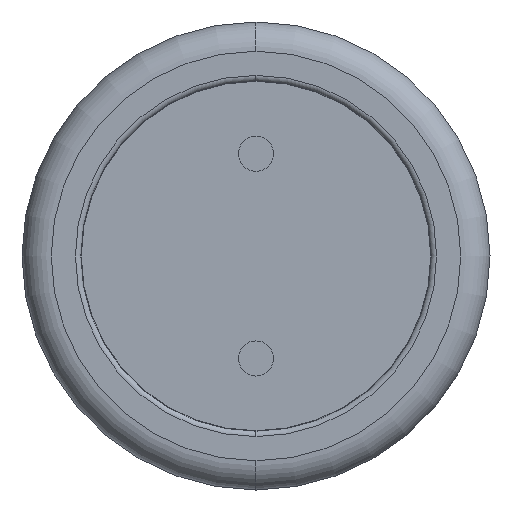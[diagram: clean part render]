
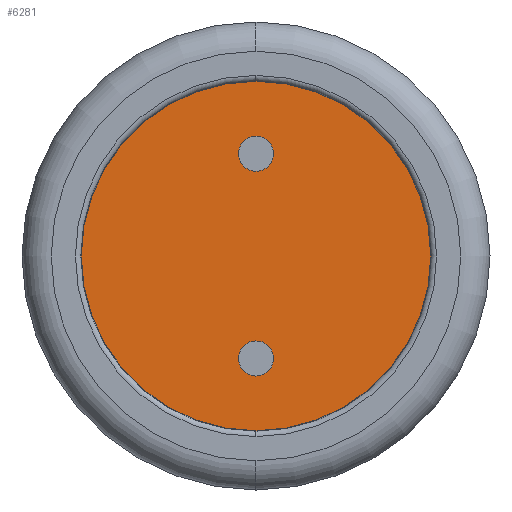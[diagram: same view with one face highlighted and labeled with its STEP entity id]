
A CAD part, left-side view. The second image highlights one B-rep face of the part: STEP entity #6281.
In plain terms, the highlighted planar face has unit normal (-1, 0, 0).
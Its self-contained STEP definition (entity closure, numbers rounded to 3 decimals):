
#40=CARTESIAN_POINT('',(-6.8,0.,0.002));
#41=DIRECTION('',(-1.,0.,0.));
#42=DIRECTION('',(0.,0.,-1.));
#43=AXIS2_PLACEMENT_3D('',#40,#41,#42);
#45=CARTESIAN_POINT('',(-6.8,0.,0.002));
#46=DIRECTION('',(1.,0.,0.));
#47=DIRECTION('',(0.,0.,-1.));
#48=AXIS2_PLACEMENT_3D('',#45,#46,#47);
#50=CARTESIAN_POINT('',(-6.8,0.,-1.75));
#51=DIRECTION('',(-1.,0.,0.));
#52=DIRECTION('',(0.,0.,-1.));
#53=AXIS2_PLACEMENT_3D('',#50,#51,#52);
#55=CARTESIAN_POINT('',(-6.8,0.,-1.75));
#56=DIRECTION('',(-1.,0.,0.));
#57=DIRECTION('',(0.,0.,1.));
#58=AXIS2_PLACEMENT_3D('',#55,#56,#57);
#60=CARTESIAN_POINT('',(-6.8,0.,1.75));
#61=DIRECTION('',(-1.,0.,0.));
#62=DIRECTION('',(0.,0.,-1.));
#63=AXIS2_PLACEMENT_3D('',#60,#61,#62);
#65=CARTESIAN_POINT('',(-6.8,0.,1.75));
#66=DIRECTION('',(-1.,0.,0.));
#67=DIRECTION('',(0.,0.,1.));
#68=AXIS2_PLACEMENT_3D('',#65,#66,#67);
#4734=CARTESIAN_POINT('',(-6.8,0.,-2.998));
#4735=VERTEX_POINT('',#4734);
#4736=CARTESIAN_POINT('',(-6.8,0.,3.002));
#4737=VERTEX_POINT('',#4736);
#4742=CARTESIAN_POINT('',(-6.8,0.,-2.05));
#4743=CARTESIAN_POINT('',(-6.8,0.,-1.45));
#4744=VERTEX_POINT('',#4742);
#4745=VERTEX_POINT('',#4743);
#4746=CARTESIAN_POINT('',(-6.8,0.,1.45));
#4747=CARTESIAN_POINT('',(-6.8,0.,2.05));
#4748=VERTEX_POINT('',#4746);
#4749=VERTEX_POINT('',#4747);
#6260=CARTESIAN_POINT('',(-6.8,0.,0.002));
#6261=DIRECTION('',(1.,0.,0.));
#6262=DIRECTION('',(0.,0.,1.));
#6263=AXIS2_PLACEMENT_3D('',#6260,#6261,#6262);
#6264=PLANE('',#6263);
#6265=ORIENTED_EDGE('',*,*,#6239,.F.);
#6266=ORIENTED_EDGE('',*,*,#6255,.T.);
#6267=EDGE_LOOP('',(#6265,#6266));
#6268=FACE_OUTER_BOUND('',#6267,.F.);
#6270=ORIENTED_EDGE('',*,*,#6269,.T.);
#6272=ORIENTED_EDGE('',*,*,#6271,.T.);
#6273=EDGE_LOOP('',(#6270,#6272));
#6274=FACE_BOUND('',#6273,.F.);
#6276=ORIENTED_EDGE('',*,*,#6275,.T.);
#6278=ORIENTED_EDGE('',*,*,#6277,.T.);
#6279=EDGE_LOOP('',(#6276,#6278));
#6280=FACE_BOUND('',#6279,.F.);
#6281=ADVANCED_FACE('',(#6268,#6274,#6280),#6264,.F.);
#44=CIRCLE('',#43,3.);
#49=CIRCLE('',#48,3.);
#54=CIRCLE('',#53,0.3);
#59=CIRCLE('',#58,0.3);
#64=CIRCLE('',#63,0.3);
#69=CIRCLE('',#68,0.3);
#6239=EDGE_CURVE('',#4735,#4737,#44,.T.);
#6255=EDGE_CURVE('',#4735,#4737,#49,.T.);
#6269=EDGE_CURVE('',#4744,#4745,#54,.T.);
#6271=EDGE_CURVE('',#4745,#4744,#59,.T.);
#6275=EDGE_CURVE('',#4748,#4749,#64,.T.);
#6277=EDGE_CURVE('',#4749,#4748,#69,.T.);
